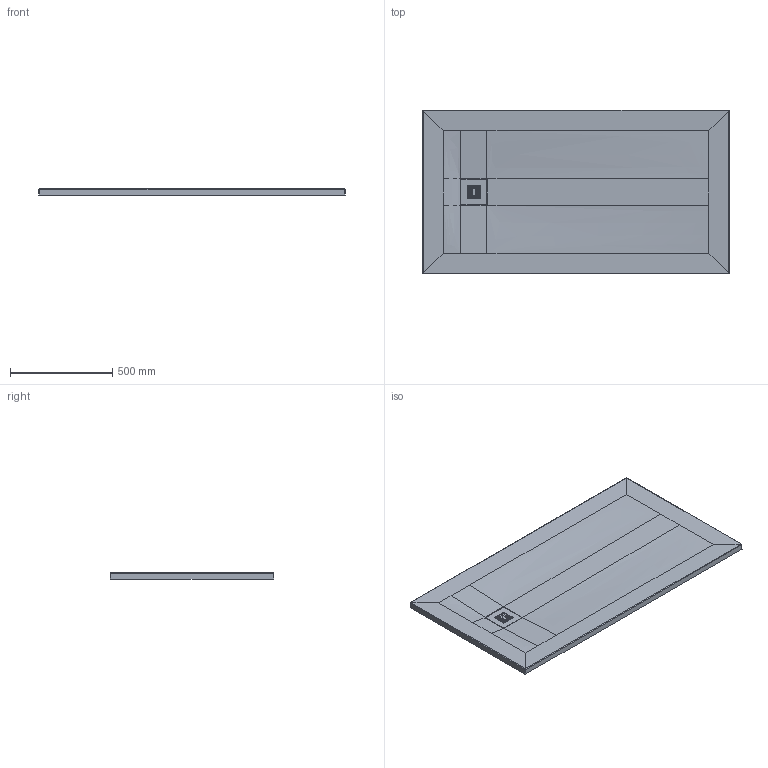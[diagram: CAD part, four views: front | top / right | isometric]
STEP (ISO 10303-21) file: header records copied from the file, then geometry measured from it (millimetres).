
FILE_DESCRIPTION(/* description */ (''),/* implementation_level */ '2;1');
FILE_NAME(/* name */ '720283',/* time_stamp */ '2022-02-10T08:50:55+01:00',/* author */ (''),/* organization */ (''),/* preprocessor_version */ 'ST-DEVELOPER v15',/* originating_system */ '',/* authorisation */ '');
FILE_SCHEMA (('AUTOMOTIVE_DESIGN'));
Length unit declared in the file: millimetre
Products named in the file (1): Document
Bounding box: 1500 x 800 x 30 mm (x, y, z)
Volume: 21067.4 mm3; surface area: 1343029.6 mm2
Topology: 1 solids, 2 shells, 116 faces, 320 edges, 206 vertices
Faces by surface type: bspline 62, plane 54
Entity records: 7933 total; most frequent: CARTESIAN_POINT 5874, ORIENTED_EDGE 608, EDGE_CURVE 320, B_SPLINE_CURVE_WITH_KNOTS 300, VERTEX_POINT 206, EDGE_LOOP 136, ADVANCED_FACE 116, FACE_OUTER_BOUND 116
